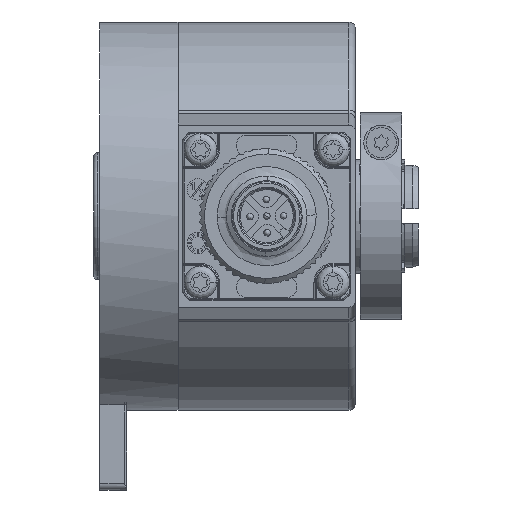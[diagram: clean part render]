
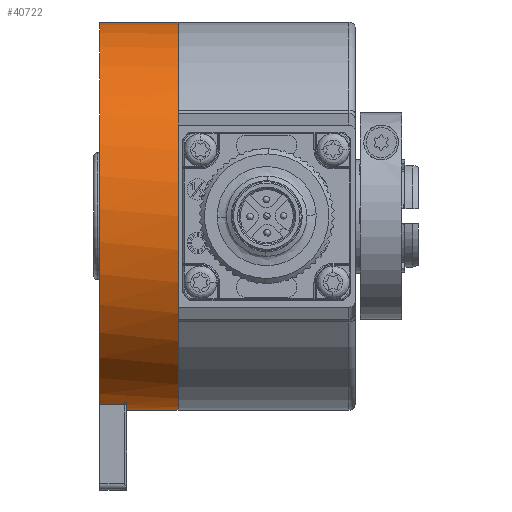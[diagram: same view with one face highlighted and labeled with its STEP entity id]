
A CAD part, front view. The second image highlights one B-rep face of the part: STEP entity #40722.
In plain terms, the highlighted cylindrical face has radius 29 mm (diameter 58 mm), a partial arc.
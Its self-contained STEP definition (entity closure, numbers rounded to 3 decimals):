
#19 = DIRECTION ( 'NONE',  ( 1., 0., 0. ) ) ;
#112 = DIRECTION ( 'NONE',  ( 1., 0., 0. ) ) ;
#1756 = DIRECTION ( 'NONE',  ( 1., 0., 0. ) ) ;
#1891 = EDGE_CURVE ( 'NONE', #47954, #50364, #23740, .T. ) ;
#3058 = EDGE_LOOP ( 'NONE', ( #43109, #7233, #20962, #8906, #21525, #9633 ) ) ;
#4057 = LINE ( 'NONE', #24568, #19042 ) ;
#4319 = DIRECTION ( 'NONE',  ( 1., 0., 0. ) ) ;
#4518 = AXIS2_PLACEMENT_3D ( 'NONE', #24009, #19, #7761 ) ;
#4643 = DIRECTION ( 'NONE',  ( 0., 0., -1. ) ) ;
#7233 = ORIENTED_EDGE ( 'NONE', *, *, #10836, .T. ) ;
#7761 = DIRECTION ( 'NONE',  ( 0., 0., -1. ) ) ;
#8606 = AXIS2_PLACEMENT_3D ( 'NONE', #8634, #41119, #4643 ) ;
#8634 = CARTESIAN_POINT ( 'NONE',  ( 8.068, 25.423, 0. ) ) ;
#8906 = ORIENTED_EDGE ( 'NONE', *, *, #32408, .T. ) ;
#9633 = ORIENTED_EDGE ( 'NONE', *, *, #14563, .F. ) ;
#9677 = AXIS2_PLACEMENT_3D ( 'NONE', #23637, #31390, #11909 ) ;
#10439 = CARTESIAN_POINT ( 'NONE',  ( 8.068, 18.423, -28.142 ) ) ;
#10836 = EDGE_CURVE ( 'NONE', #11965, #50364, #48413, .T. ) ;
#11909 = DIRECTION ( 'NONE',  ( 0., 0., 1. ) ) ;
#11965 = VERTEX_POINT ( 'NONE', #35908 ) ;
#14563 = EDGE_CURVE ( 'NONE', #24262, #48877, #25767, .T. ) ;
#14744 = VECTOR ( 'NONE', #112, 1000. ) ;
#16125 = AXIS2_PLACEMENT_3D ( 'NONE', #42509, #1756, #51003 ) ;
#16478 = CIRCLE ( 'NONE', #9677, 29. ) ;
#16606 = EDGE_CURVE ( 'NONE', #21475, #48877, #32361, .T. ) ;
#18530 = CARTESIAN_POINT ( 'NONE',  ( 8.068, 25.423, -29. ) ) ;
#19042 = VECTOR ( 'NONE', #4319, 1000. ) ;
#20962 = ORIENTED_EDGE ( 'NONE', *, *, #1891, .F. ) ;
#21475 = VERTEX_POINT ( 'NONE', #45881 ) ;
#21525 = ORIENTED_EDGE ( 'NONE', *, *, #16606, .T. ) ;
#23637 = CARTESIAN_POINT ( 'NONE',  ( 0.378, 25.423, 0. ) ) ;
#23740 = LINE ( 'NONE', #10439, #46854 ) ;
#24009 = CARTESIAN_POINT ( 'NONE',  ( 8.068, 25.423, 0. ) ) ;
#24262 = VERTEX_POINT ( 'NONE', #37830 ) ;
#24568 = CARTESIAN_POINT ( 'NONE',  ( 8.068, 25.423, 29. ) ) ;
#25767 = CIRCLE ( 'NONE', #4518, 29. ) ;
#27783 = EDGE_CURVE ( 'NONE', #11965, #24262, #4057, .T. ) ;
#28892 = CYLINDRICAL_SURFACE ( 'NONE', #8606, 29. ) ;
#31390 = DIRECTION ( 'NONE',  ( 1., 0., 0. ) ) ;
#31753 = DIRECTION ( 'NONE',  ( -1., 0., 0. ) ) ;
#32361 = LINE ( 'NONE', #52558, #14744 ) ;
#32408 = EDGE_CURVE ( 'NONE', #47954, #21475, #16478, .T. ) ;
#35908 = CARTESIAN_POINT ( 'NONE',  ( -3.622, 25.423, 29. ) ) ;
#37830 = CARTESIAN_POINT ( 'NONE',  ( 8.068, 25.423, 29. ) ) ;
#40722 = ADVANCED_FACE ( 'NONE', ( #49094 ), #28892, .T. ) ;
#41119 = DIRECTION ( 'NONE',  ( 1., 0., 0. ) ) ;
#41141 = CARTESIAN_POINT ( 'NONE',  ( 0.378, 18.423, -28.142 ) ) ;
#42509 = CARTESIAN_POINT ( 'NONE',  ( -3.622, 25.423, 0. ) ) ;
#43109 = ORIENTED_EDGE ( 'NONE', *, *, #27783, .F. ) ;
#45881 = CARTESIAN_POINT ( 'NONE',  ( 0.378, 25.423, -29. ) ) ;
#45937 = CARTESIAN_POINT ( 'NONE',  ( -3.622, 18.423, -28.142 ) ) ;
#46854 = VECTOR ( 'NONE', #31753, 1000. ) ;
#47954 = VERTEX_POINT ( 'NONE', #41141 ) ;
#48413 = CIRCLE ( 'NONE', #16125, 29. ) ;
#48877 = VERTEX_POINT ( 'NONE', #18530 ) ;
#49094 = FACE_OUTER_BOUND ( 'NONE', #3058, .T. ) ;
#50364 = VERTEX_POINT ( 'NONE', #45937 ) ;
#51003 = DIRECTION ( 'NONE',  ( 0., 0., -1. ) ) ;
#52558 = CARTESIAN_POINT ( 'NONE',  ( 8.068, 25.423, -29. ) ) ;
